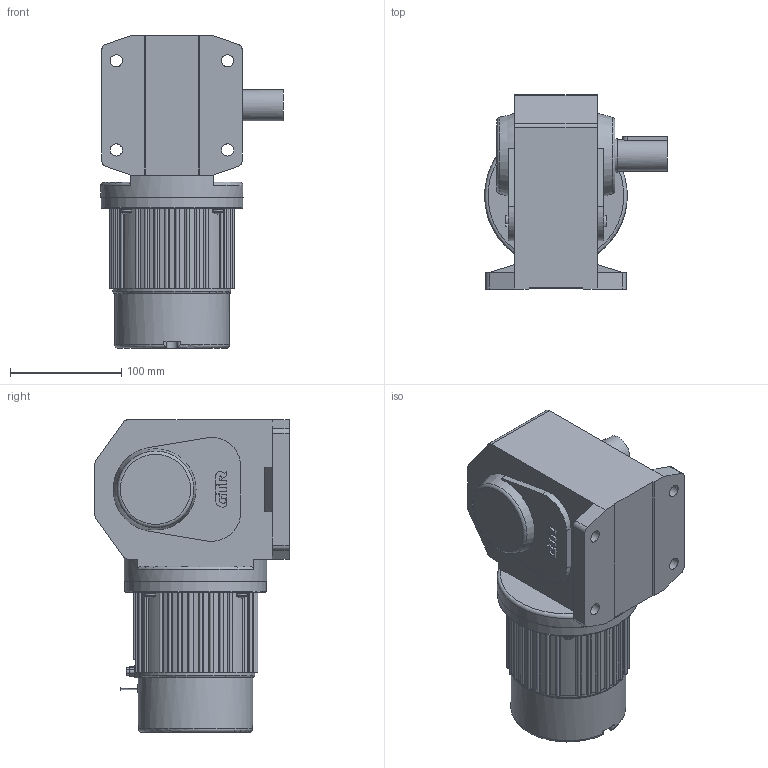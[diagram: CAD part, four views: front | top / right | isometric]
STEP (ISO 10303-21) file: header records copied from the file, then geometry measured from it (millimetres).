
FILE_DESCRIPTION( ( 'STEP AP203' ), ' ' );
FILE_NAME( 'p:/temp/worker_30/2884_4028/app_55_12018010905264221643509818fa3fd_000000_00_00_000000/format_0/VHLD28L-5N400L2.stp', '2018-01-09T04:26:43', ( '' ), ( '' ), ' ', 'PARTsolutions', ' ' );
FILE_SCHEMA( ( 'CONFIG_CONTROL_DESIGN' ) );
Length unit declared in the file: millimetre
Products named in the file (5): VHLD28L-5N400L2; _HL28L2-No; _M105VQ-04DC_Motor case; _BCOVER-110DC_Brake cover; _KEY 28
Assembly tree (4 placements, depth 2):
  VHLD28L-5N400L2
    _HL28L2-No
    _M105VQ-04DC_Motor case
    _BCOVER-110DC_Brake cover
    _KEY 28
Bounding box: 164 x 174.5 x 280.5 mm (x, y, z)
Volume: 3303056.2 mm3; surface area: 221184.4 mm2
Topology: 4 solids, 4 shells, 479 faces, 1336 edges, 884 vertices
Faces by surface type: plane 228, cylinder 196, torus 48, sphere 4, cone 3
Full cylindrical faces by diameter (mm): 1 x2, 3.5 x3, 4.5 x2, 5 x1, 6 x1, 7 x1, 11 x4, 28 x1, 30 x1, 103 x1, 127 x1, 128 x1
Entity records: 16043 total; most frequent: CARTESIAN_POINT 3549, DIRECTION 2618, ORIENTED_EDGE 2568, EDGE_CURVE 1284, AXIS2_PLACEMENT_3D 957, VERTEX_POINT 869, LINE 704, VECTOR 704
